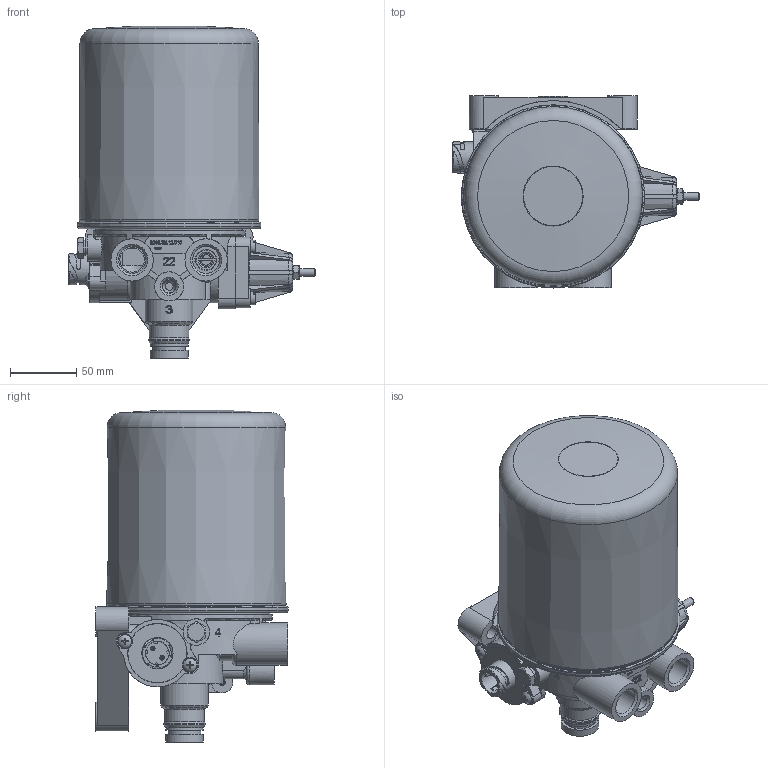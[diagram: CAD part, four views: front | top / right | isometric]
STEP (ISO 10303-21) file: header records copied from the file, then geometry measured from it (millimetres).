
FILE_DESCRIPTION(/* description */ (''),/* implementation_level */ '2;1');
FILE_NAME(/* name */ '8243.35.12.010_20-Реглятор давления с адсорбером.stp',/* time_stamp */ '2023-10-04T10:29:32+03:00',/* author */ (''),/* organization */ (''),/* preprocessor_version */ 'ST-DEVELOPER v16.7',/* originating_system */ 'SIEMENS PLM Software NX 1899',/* authorisation */ '');
FILE_SCHEMA (('AUTOMOTIVE_DESIGN { 1 0 10303 214 3 1 1 1 }'));
Length unit declared in the file: millimetre
Products named in the file (1): kuzm7F2CB1E9zpqw
Bounding box: 186.6 x 145.35 x 251.2 mm (x, y, z)
Volume: 461484.2 mm3; surface area: 359143.5 mm2
Topology: 1 solids, 16 shells, 1412 faces, 3839 edges, 2507 vertices
Faces by surface type: plane 732, cylinder 345, torus 152, cone 90, extrusion 56, bspline 33, sphere 4
Full cylindrical faces by diameter (mm): 1.7 x2, 2 x2, 2.2 x1, 2.5 x3, 3 x2, 3.2 x3, 3.5 x2, 4.2 x3, 5 x6, 5.5 x2, 6 x9, 6.2 x1, 6.6 x4, 7 x1, 8 x1, 9.5 x1, 10 x7, 10.2 x1, 10.5 x6, 11.5 x2, 12 x1, 14 x1, 16 x2, 16.6 x1, 17 x1, 17.7 x1, 18.5 x1, 20 x3, 20.5 x3, 22 x4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
Entity records: 49117 total; most frequent: CARTESIAN_POINT 15495, ORIENTED_EDGE 6954, DIRECTION 6635, EDGE_CURVE 3477, AXIS2_PLACEMENT_3D 2498, VERTEX_POINT 2399, EDGE_LOOP 1794, VECTOR 1639
